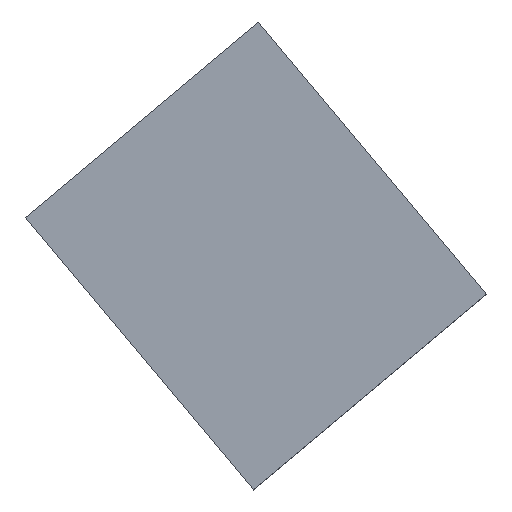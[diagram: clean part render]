
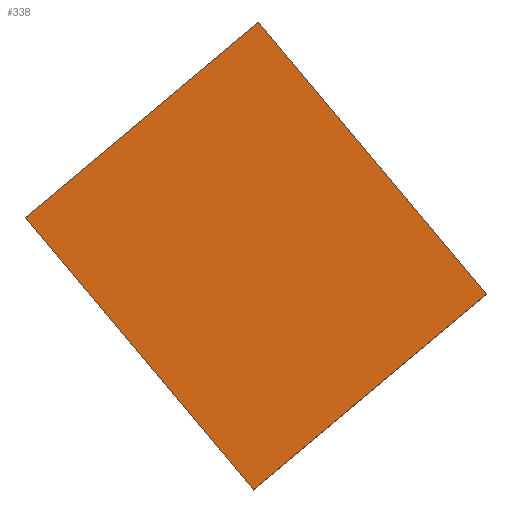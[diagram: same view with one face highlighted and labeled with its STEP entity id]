
A CAD part, top view. The second image highlights one B-rep face of the part: STEP entity #338.
In plain terms, the highlighted planar face has unit normal (0, 0, 1).
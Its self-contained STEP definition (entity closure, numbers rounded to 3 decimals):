
#24 = VERTEX_POINT('',#25);
#25 = CARTESIAN_POINT('',(-107.442,118.71,18.));
#32 = PLANE('',#33);
#33 = AXIS2_PLACEMENT_3D('',#34,#35,#36);
#34 = CARTESIAN_POINT('',(-107.442,118.71,14.));
#35 = DIRECTION('',(-0.766,-0.643,0.));
#36 = DIRECTION('',(-0.643,0.766,0.));
#44 = PLANE('',#45);
#45 = AXIS2_PLACEMENT_3D('',#46,#47,#48);
#46 = CARTESIAN_POINT('',(-98.25,126.424,14.));
#47 = DIRECTION('',(0.643,-0.766,0.));
#48 = DIRECTION('',(-0.766,-0.643,0.));
#56 = EDGE_CURVE('',#24,#57,#59,.T.);
#57 = VERTEX_POINT('',#58);
#58 = CARTESIAN_POINT('',(-116.441,129.435,18.));
#59 = SURFACE_CURVE('',#60,(#64,#71),.PCURVE_S1.);
#60 = LINE('',#61,#62);
#61 = CARTESIAN_POINT('',(-107.442,118.71,18.));
#62 = VECTOR('',#63,1.);
#63 = DIRECTION('',(-0.643,0.766,0.));
#64 = PCURVE('',#32,#65);
#65 = DEFINITIONAL_REPRESENTATION('',(#66),#70);
#66 = LINE('',#67,#68);
#67 = CARTESIAN_POINT('',(0.,-4.));
#68 = VECTOR('',#69,1.);
#69 = DIRECTION('',(1.,0.));
#70 = ( GEOMETRIC_REPRESENTATION_CONTEXT(2) 
PARAMETRIC_REPRESENTATION_CONTEXT() REPRESENTATION_CONTEXT('2D SPACE',''
  ) );
#71 = PCURVE('',#72,#77);
#72 = PLANE('',#73);
#73 = AXIS2_PLACEMENT_3D('',#74,#75,#76);
#74 = CARTESIAN_POINT('',(-107.346,127.929,18.));
#75 = DIRECTION('',(-0.,-0.,-1.));
#76 = DIRECTION('',(-1.,0.,0.));
#77 = DEFINITIONAL_REPRESENTATION('',(#78),#82);
#78 = LINE('',#79,#80);
#79 = CARTESIAN_POINT('',(0.097,-9.219));
#80 = VECTOR('',#81,1.);
#81 = DIRECTION('',(0.643,0.766));
#82 = ( GEOMETRIC_REPRESENTATION_CONTEXT(2) 
PARAMETRIC_REPRESENTATION_CONTEXT() REPRESENTATION_CONTEXT('2D SPACE',''
  ) );
#100 = PLANE('',#101);
#101 = AXIS2_PLACEMENT_3D('',#102,#103,#104);
#102 = CARTESIAN_POINT('',(-116.441,129.435,14.));
#103 = DIRECTION('',(-0.643,0.766,0.));
#104 = DIRECTION('',(0.766,0.643,0.));
#142 = EDGE_CURVE('',#57,#143,#145,.T.);
#143 = VERTEX_POINT('',#144);
#144 = CARTESIAN_POINT('',(-107.249,137.148,18.));
#145 = SURFACE_CURVE('',#146,(#150,#157),.PCURVE_S1.);
#146 = LINE('',#147,#148);
#147 = CARTESIAN_POINT('',(-116.441,129.435,18.));
#148 = VECTOR('',#149,1.);
#149 = DIRECTION('',(0.766,0.643,0.));
#150 = PCURVE('',#100,#151);
#151 = DEFINITIONAL_REPRESENTATION('',(#152),#156);
#152 = LINE('',#153,#154);
#153 = CARTESIAN_POINT('',(0.,-4.));
#154 = VECTOR('',#155,1.);
#155 = DIRECTION('',(1.,0.));
#156 = ( GEOMETRIC_REPRESENTATION_CONTEXT(2) 
PARAMETRIC_REPRESENTATION_CONTEXT() REPRESENTATION_CONTEXT('2D SPACE',''
  ) );
#157 = PCURVE('',#72,#158);
#158 = DEFINITIONAL_REPRESENTATION('',(#159),#163);
#159 = LINE('',#160,#161);
#160 = CARTESIAN_POINT('',(9.096,1.506));
#161 = VECTOR('',#162,1.);
#162 = DIRECTION('',(-0.766,0.643));
#163 = ( GEOMETRIC_REPRESENTATION_CONTEXT(2) 
PARAMETRIC_REPRESENTATION_CONTEXT() REPRESENTATION_CONTEXT('2D SPACE',''
  ) );
#181 = PLANE('',#182);
#182 = AXIS2_PLACEMENT_3D('',#183,#184,#185);
#183 = CARTESIAN_POINT('',(-107.249,137.148,14.));
#184 = DIRECTION('',(0.766,0.643,-0.));
#185 = DIRECTION('',(0.643,-0.766,0.));
#218 = EDGE_CURVE('',#143,#219,#221,.T.);
#219 = VERTEX_POINT('',#220);
#220 = CARTESIAN_POINT('',(-98.25,126.424,18.));
#221 = SURFACE_CURVE('',#222,(#226,#233),.PCURVE_S1.);
#222 = LINE('',#223,#224);
#223 = CARTESIAN_POINT('',(-107.249,137.148,18.));
#224 = VECTOR('',#225,1.);
#225 = DIRECTION('',(0.643,-0.766,0.));
#226 = PCURVE('',#181,#227);
#227 = DEFINITIONAL_REPRESENTATION('',(#228),#232);
#228 = LINE('',#229,#230);
#229 = CARTESIAN_POINT('',(0.,-4.));
#230 = VECTOR('',#231,1.);
#231 = DIRECTION('',(1.,0.));
#232 = ( GEOMETRIC_REPRESENTATION_CONTEXT(2) 
PARAMETRIC_REPRESENTATION_CONTEXT() REPRESENTATION_CONTEXT('2D SPACE',''
  ) );
#233 = PCURVE('',#72,#234);
#234 = DEFINITIONAL_REPRESENTATION('',(#235),#239);
#235 = LINE('',#236,#237);
#236 = CARTESIAN_POINT('',(-0.097,9.219));
#237 = VECTOR('',#238,1.);
#238 = DIRECTION('',(-0.643,-0.766));
#239 = ( GEOMETRIC_REPRESENTATION_CONTEXT(2) 
PARAMETRIC_REPRESENTATION_CONTEXT() REPRESENTATION_CONTEXT('2D SPACE',''
  ) );
#289 = EDGE_CURVE('',#219,#24,#290,.T.);
#290 = SURFACE_CURVE('',#291,(#295,#302),.PCURVE_S1.);
#291 = LINE('',#292,#293);
#292 = CARTESIAN_POINT('',(-98.25,126.424,18.));
#293 = VECTOR('',#294,1.);
#294 = DIRECTION('',(-0.766,-0.643,0.));
#295 = PCURVE('',#44,#296);
#296 = DEFINITIONAL_REPRESENTATION('',(#297),#301);
#297 = LINE('',#298,#299);
#298 = CARTESIAN_POINT('',(0.,-4.));
#299 = VECTOR('',#300,1.);
#300 = DIRECTION('',(1.,0.));
#301 = ( GEOMETRIC_REPRESENTATION_CONTEXT(2) 
PARAMETRIC_REPRESENTATION_CONTEXT() REPRESENTATION_CONTEXT('2D SPACE',''
  ) );
#302 = PCURVE('',#72,#303);
#303 = DEFINITIONAL_REPRESENTATION('',(#304),#308);
#304 = LINE('',#305,#306);
#305 = CARTESIAN_POINT('',(-9.096,-1.506));
#306 = VECTOR('',#307,1.);
#307 = DIRECTION('',(0.766,-0.643));
#308 = ( GEOMETRIC_REPRESENTATION_CONTEXT(2) 
PARAMETRIC_REPRESENTATION_CONTEXT() REPRESENTATION_CONTEXT('2D SPACE',''
  ) );
#338 = ADVANCED_FACE('',(#339),#72,.F.);
#339 = FACE_BOUND('',#340,.F.);
#340 = EDGE_LOOP('',(#341,#342,#343,#344));
#341 = ORIENTED_EDGE('',*,*,#56,.T.);
#342 = ORIENTED_EDGE('',*,*,#142,.T.);
#343 = ORIENTED_EDGE('',*,*,#218,.T.);
#344 = ORIENTED_EDGE('',*,*,#289,.T.);
